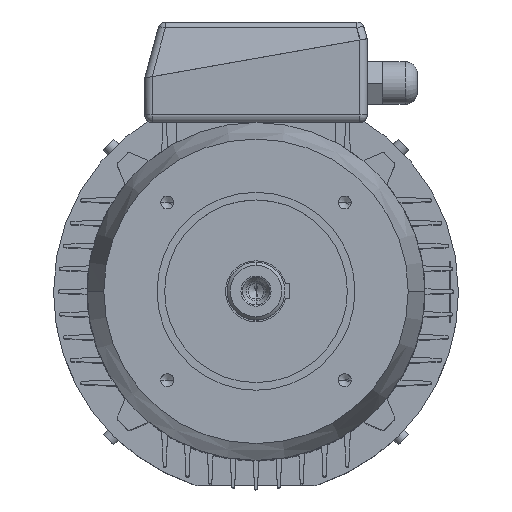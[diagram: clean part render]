
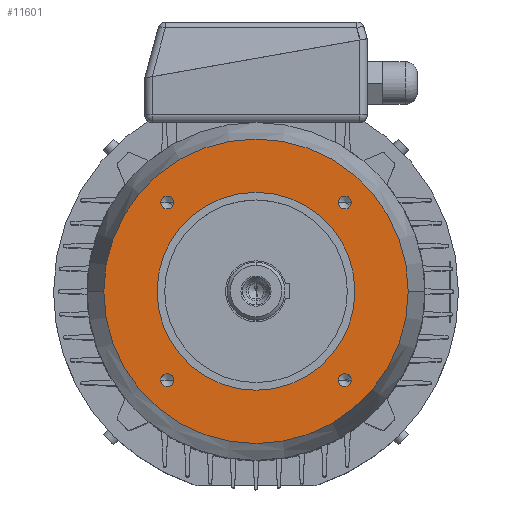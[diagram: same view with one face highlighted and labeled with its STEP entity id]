
A CAD part, top view. The second image highlights one B-rep face of the part: STEP entity #11601.
In plain terms, the highlighted planar face has unit normal (0, 0, 1).
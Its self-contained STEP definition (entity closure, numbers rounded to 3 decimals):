
#16472 = EDGE_LOOP ( 'NONE', ( #15655, #6568 ) ) ;
#135 = EDGE_CURVE ( 'NONE', #17901, #18154, #8404, .T. ) ;
#16542 = CARTESIAN_POINT ( 'NONE',  ( -54.086, 58.336, 58. ) ) ;
#16745 = CIRCLE ( 'NONE', #16746, 4.25 ) ;
#16746 = AXIS2_PLACEMENT_3D ( 'NONE', #16747, #16748, #16749 ) ;
#16747 = CARTESIAN_POINT ( 'NONE',  ( -58.336, 58.336, 58. ) ) ;
#16748 = DIRECTION ( 'NONE',  ( 0., 0., 1. ) ) ;
#16749 = DIRECTION ( 'NONE',  ( 1., 0., 0. ) ) ;
#16761 = EDGE_CURVE ( 'NONE', #7814, #7879, #5127, .T. ) ;
#523 = VERTEX_POINT ( 'NONE', #8644 ) ;
#574 = ORIENTED_EDGE ( 'NONE', *, *, #135, .T. ) ;
#687 = CARTESIAN_POINT ( 'NONE',  ( -54.086, -58.336, 58. ) ) ;
#779 = EDGE_CURVE ( 'NONE', #2013, #523, #8778, .T. ) ;
#17183 = ORIENTED_EDGE ( 'NONE', *, *, #16761, .F. ) ;
#915 = CIRCLE ( 'NONE', #916, 4.25 ) ;
#916 = AXIS2_PLACEMENT_3D ( 'NONE', #917, #918, #919 ) ;
#917 = CARTESIAN_POINT ( 'NONE',  ( -58.336, -58.336, 58. ) ) ;
#918 = DIRECTION ( 'NONE',  ( 0., 0., 1. ) ) ;
#919 = DIRECTION ( 'NONE',  ( 1., 0., 0. ) ) ;
#1052 = FACE_BOUND ( 'NONE', #11313, .T. ) ;
#1053 = FACE_OUTER_BOUND ( 'NONE', #1177, .T. ) ;
#1054 = FACE_BOUND ( 'NONE', #18413, .T. ) ;
#1055 = FACE_BOUND ( 'NONE', #16472, .T. ) ;
#1056 = FACE_BOUND ( 'NONE', #6291, .T. ) ;
#1057 = FACE_BOUND ( 'NONE', #4345, .T. ) ;
#1058 = PLANE ( 'NONE',  #1059 ) ;
#1059 = AXIS2_PLACEMENT_3D ( 'NONE', #1060, #1061, #1062 ) ;
#1060 = CARTESIAN_POINT ( 'NONE',  ( 0., 100., 58. ) ) ;
#1061 = DIRECTION ( 'NONE',  ( 0., 0., -1. ) ) ;
#1062 = DIRECTION ( 'NONE',  ( -1., 0., 0. ) ) ;
#1177 = EDGE_LOOP ( 'NONE', ( #574, #18698 ) ) ;
#17809 = ORIENTED_EDGE ( 'NONE', *, *, #7948, .F. ) ;
#1466 = ORIENTED_EDGE ( 'NONE', *, *, #779, .F. ) ;
#17901 = VERTEX_POINT ( 'NONE', #6127 ) ;
#18064 = CARTESIAN_POINT ( 'NONE',  ( -62.586, 58.336, 58. ) ) ;
#18154 = VERTEX_POINT ( 'NONE', #6302 ) ;
#1921 = CARTESIAN_POINT ( 'NONE',  ( -62.586, -58.336, 58. ) ) ;
#2013 = VERTEX_POINT ( 'NONE', #9860 ) ;
#18412 = EDGE_CURVE ( 'NONE', #18154, #17901, #6549, .T. ) ;
#18413 = EDGE_LOOP ( 'NONE', ( #17809, #17183 ) ) ;
#18698 = ORIENTED_EDGE ( 'NONE', *, *, #18412, .T. ) ;
#18990 = CARTESIAN_POINT ( 'NONE',  ( 62.586, -58.336, 58. ) ) ;
#2688 = ORIENTED_EDGE ( 'NONE', *, *, #8123, .F. ) ;
#19114 = CIRCLE ( 'NONE', #19115, 4.25 ) ;
#19115 = AXIS2_PLACEMENT_3D ( 'NONE', #19116, #19117, #19118 ) ;
#19116 = CARTESIAN_POINT ( 'NONE',  ( 58.336, -58.336, 58. ) ) ;
#19117 = DIRECTION ( 'NONE',  ( 0., 0., 1. ) ) ;
#19118 = DIRECTION ( 'NONE',  ( 1., 0., 0. ) ) ;
#19146 = CIRCLE ( 'NONE', #19156, 4.25 ) ;
#19156 = AXIS2_PLACEMENT_3D ( 'NONE', #19157, #19158, #19159 ) ;
#19157 = CARTESIAN_POINT ( 'NONE',  ( 58.336, 58.336, 58. ) ) ;
#19158 = DIRECTION ( 'NONE',  ( 0., 0., 1. ) ) ;
#19159 = DIRECTION ( 'NONE',  ( 1., 0., 0. ) ) ;
#3268 = VERTEX_POINT ( 'NONE', #11004 ) ;
#3299 = EDGE_CURVE ( 'NONE', #8047, #8672, #11034, .T. ) ;
#3737 = ORIENTED_EDGE ( 'NONE', *, *, #3299, .F. ) ;
#4181 = CIRCLE ( 'NONE', #4182, 4.25 ) ;
#4182 = AXIS2_PLACEMENT_3D ( 'NONE', #4183, #4184, #4185 ) ;
#4183 = CARTESIAN_POINT ( 'NONE',  ( -58.336, -58.336, 58. ) ) ;
#4184 = DIRECTION ( 'NONE',  ( 0., 0., 1. ) ) ;
#4185 = DIRECTION ( 'NONE',  ( 1., 0., 0. ) ) ;
#4345 = EDGE_LOOP ( 'NONE', ( #3737, #2688 ) ) ;
#4629 = ORIENTED_EDGE ( 'NONE', *, *, #10242, .F. ) ;
#5127 = CIRCLE ( 'NONE', #5128, 65. ) ;
#5128 = AXIS2_PLACEMENT_3D ( 'NONE', #5129, #5130, #5131 ) ;
#5129 = CARTESIAN_POINT ( 'NONE',  ( 0., 0., 58. ) ) ;
#5130 = DIRECTION ( 'NONE',  ( 0., 0., 1. ) ) ;
#5131 = DIRECTION ( 'NONE',  ( 1., 0., 0. ) ) ;
#5243 = EDGE_CURVE ( 'NONE', #9978, #3268, #12372, .T. ) ;
#5691 = ORIENTED_EDGE ( 'NONE', *, *, #5243, .F. ) ;
#6127 = CARTESIAN_POINT ( 'NONE',  ( -100., 0., 58. ) ) ;
#6291 = EDGE_LOOP ( 'NONE', ( #5691, #4629 ) ) ;
#6302 = CARTESIAN_POINT ( 'NONE',  ( 100., 0., 58. ) ) ;
#6549 = CIRCLE ( 'NONE', #6550, 100. ) ;
#6550 = AXIS2_PLACEMENT_3D ( 'NONE', #6551, #6552, #6553 ) ;
#6551 = CARTESIAN_POINT ( 'NONE',  ( 0., 0., 58. ) ) ;
#6552 = DIRECTION ( 'NONE',  ( 0., 0., 1. ) ) ;
#6553 = DIRECTION ( 'NONE',  ( 1., 0., 0. ) ) ;
#6568 = ORIENTED_EDGE ( 'NONE', *, *, #11513, .F. ) ;
#7814 = VERTEX_POINT ( 'NONE', #15861 ) ;
#7879 = VERTEX_POINT ( 'NONE', #16076 ) ;
#7948 = EDGE_CURVE ( 'NONE', #7879, #7814, #16247, .T. ) ;
#8047 = VERTEX_POINT ( 'NONE', #16542 ) ;
#8123 = EDGE_CURVE ( 'NONE', #8672, #8047, #16745, .T. ) ;
#8404 = CIRCLE ( 'NONE', #8405, 100. ) ;
#8405 = AXIS2_PLACEMENT_3D ( 'NONE', #8406, #8407, #8408 ) ;
#8406 = CARTESIAN_POINT ( 'NONE',  ( 0., 0., 58. ) ) ;
#8407 = DIRECTION ( 'NONE',  ( 0., 0., 1. ) ) ;
#8408 = DIRECTION ( 'NONE',  ( 1., 0., 0. ) ) ;
#8644 = CARTESIAN_POINT ( 'NONE',  ( 62.586, 58.336, 58. ) ) ;
#8672 = VERTEX_POINT ( 'NONE', #18064 ) ;
#8778 = CIRCLE ( 'NONE', #8779, 4.25 ) ;
#8779 = AXIS2_PLACEMENT_3D ( 'NONE', #8791, #8792, #8793 ) ;
#8791 = CARTESIAN_POINT ( 'NONE',  ( 58.336, 58.336, 58. ) ) ;
#8792 = DIRECTION ( 'NONE',  ( 0., 0., 1. ) ) ;
#8793 = DIRECTION ( 'NONE',  ( 1., 0., 0. ) ) ;
#9860 = CARTESIAN_POINT ( 'NONE',  ( 54.086, 58.336, 58. ) ) ;
#9978 = VERTEX_POINT ( 'NONE', #18990 ) ;
#10242 = EDGE_CURVE ( 'NONE', #3268, #9978, #19114, .T. ) ;
#10267 = EDGE_CURVE ( 'NONE', #523, #2013, #19146, .T. ) ;
#10694 = ORIENTED_EDGE ( 'NONE', *, *, #10267, .F. ) ;
#11004 = CARTESIAN_POINT ( 'NONE',  ( 54.086, -58.336, 58. ) ) ;
#11034 = CIRCLE ( 'NONE', #11035, 4.25 ) ;
#11035 = AXIS2_PLACEMENT_3D ( 'NONE', #11036, #11037, #11038 ) ;
#11036 = CARTESIAN_POINT ( 'NONE',  ( -58.336, 58.336, 58. ) ) ;
#11037 = DIRECTION ( 'NONE',  ( 0., 0., 1. ) ) ;
#11038 = DIRECTION ( 'NONE',  ( 1., 0., 0. ) ) ;
#11233 = VERTEX_POINT ( 'NONE', #687 ) ;
#11313 = EDGE_LOOP ( 'NONE', ( #10694, #1466 ) ) ;
#11513 = EDGE_CURVE ( 'NONE', #12550, #11233, #915, .T. ) ;
#11601 = ADVANCED_FACE ( 'NONE', ( #1052, #1053, #1054, #1055, #1056, #1057 ), #1058, .F. ) ;
#12372 = CIRCLE ( 'NONE', #12373, 4.25 ) ;
#12373 = AXIS2_PLACEMENT_3D ( 'NONE', #12374, #12375, #12376 ) ;
#12374 = CARTESIAN_POINT ( 'NONE',  ( 58.336, -58.336, 58. ) ) ;
#12375 = DIRECTION ( 'NONE',  ( 0., 0., 1. ) ) ;
#12376 = DIRECTION ( 'NONE',  ( 1., 0., 0. ) ) ;
#12550 = VERTEX_POINT ( 'NONE', #1921 ) ;
#15460 = EDGE_CURVE ( 'NONE', #11233, #12550, #4181, .T. ) ;
#15655 = ORIENTED_EDGE ( 'NONE', *, *, #15460, .F. ) ;
#15861 = CARTESIAN_POINT ( 'NONE',  ( -65., 0., 58. ) ) ;
#16076 = CARTESIAN_POINT ( 'NONE',  ( 65., 0., 58. ) ) ;
#16247 = CIRCLE ( 'NONE', #16248, 65. ) ;
#16248 = AXIS2_PLACEMENT_3D ( 'NONE', #16255, #16256, #16257 ) ;
#16255 = CARTESIAN_POINT ( 'NONE',  ( 0., 0., 58. ) ) ;
#16256 = DIRECTION ( 'NONE',  ( 0., 0., 1. ) ) ;
#16257 = DIRECTION ( 'NONE',  ( 1., 0., 0. ) ) ;
